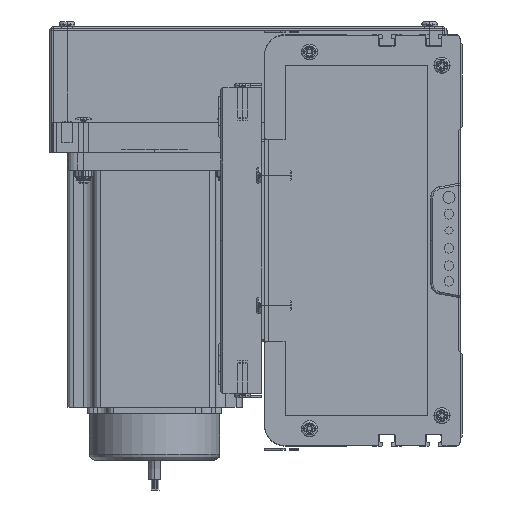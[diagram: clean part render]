
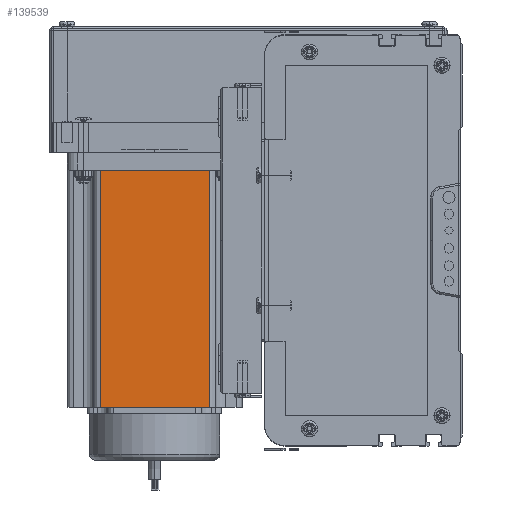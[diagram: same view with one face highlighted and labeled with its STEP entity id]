
A CAD part, left-side view. The second image highlights one B-rep face of the part: STEP entity #139539.
In plain terms, the highlighted planar face has unit normal (-1, 0, 0) as drawn and (0, -1, 0) by its records, which use the part's own axes.
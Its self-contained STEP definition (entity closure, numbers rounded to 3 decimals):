
#88078 = DIRECTION ( 'NONE',  ( 0., 0., 1. ) ) ;
#88081 = DIRECTION ( 'NONE',  ( 0., 1., 0. ) ) ;
#88085 = AXIS2_PLACEMENT_3D ( 'NONE', #88133, #88081, #88078 ) ;
#88133 = CARTESIAN_POINT ( 'NONE',  ( 0., 0., 116.5 ) ) ;
#88305 = FACE_OUTER_BOUND ( 'NONE', #139174, .T. ) ;
#88554 = DIRECTION ( 'NONE',  ( 1., 0., 0. ) ) ;
#88556 = VECTOR ( 'NONE', #88554, 1000. ) ;
#88592 = PLANE ( 'NONE',  #88085 ) ;
#88593 = CARTESIAN_POINT ( 'NONE',  ( 0., 0., 116.5 ) ) ;
#88594 = LINE ( 'NONE', #88593, #88556 ) ;
#104249 = DIRECTION ( 'NONE',  ( 0., 0., 1. ) ) ;
#104250 = VECTOR ( 'NONE', #104249, 1000. ) ;
#104258 = CARTESIAN_POINT ( 'NONE',  ( 69.74, 0., 116.5 ) ) ;
#104260 = LINE ( 'NONE', #104258, #104250 ) ;
#113694 = VECTOR ( 'NONE', #113717, 1000. ) ;
#113717 = DIRECTION ( 'NONE',  ( 0., 0., -1. ) ) ;
#114122 = LINE ( 'NONE', #114135, #113694 ) ;
#114135 = CARTESIAN_POINT ( 'NONE',  ( 16.16, 0., 116.5 ) ) ;
#114324 = CARTESIAN_POINT ( 'NONE',  ( 69.74, 0., 116.5 ) ) ;
#114757 = CARTESIAN_POINT ( 'NONE',  ( 0., 0., 0. ) ) ;
#114758 = LINE ( 'NONE', #114757, #114853 ) ;
#114841 = CARTESIAN_POINT ( 'NONE',  ( 16.16, 0., 0. ) ) ;
#114852 = DIRECTION ( 'NONE',  ( 1., 0., 0. ) ) ;
#114853 = VECTOR ( 'NONE', #114852, 1000. ) ;
#115185 = CARTESIAN_POINT ( 'NONE',  ( 16.16, 0., 116.5 ) ) ;
#115298 = CARTESIAN_POINT ( 'NONE',  ( 69.74, 0., 0. ) ) ;
#138723 = VERTEX_POINT ( 'NONE', #114324 ) ;
#138911 = ORIENTED_EDGE ( 'NONE', *, *, #139014, .T. ) ;
#138958 = ORIENTED_EDGE ( 'NONE', *, *, #139258, .T. ) ;
#138967 = EDGE_CURVE ( 'NONE', #139044, #139047, #114122, .T. ) ;
#139005 = ORIENTED_EDGE ( 'NONE', *, *, #138967, .T. ) ;
#139014 = EDGE_CURVE ( 'NONE', #139047, #139173, #114758, .T. ) ;
#139044 = VERTEX_POINT ( 'NONE', #115185 ) ;
#139047 = VERTEX_POINT ( 'NONE', #114841 ) ;
#139053 = ORIENTED_EDGE ( 'NONE', *, *, #139541, .F. ) ;
#139173 = VERTEX_POINT ( 'NONE', #115298 ) ;
#139174 = EDGE_LOOP ( 'NONE', ( #138911, #138958, #139053, #139005 ) ) ;
#139258 = EDGE_CURVE ( 'NONE', #139173, #138723, #104260, .T. ) ;
#139539 = ADVANCED_FACE ( 'NONE', ( #88305 ), #88592, .F. ) ;
#139541 = EDGE_CURVE ( 'NONE', #139044, #138723, #88594, .T. ) ;
